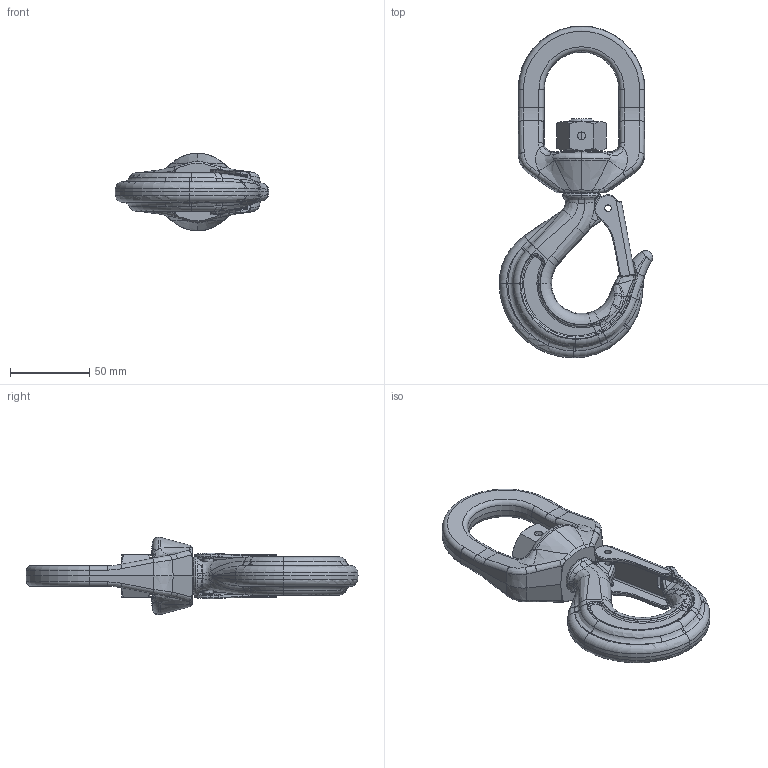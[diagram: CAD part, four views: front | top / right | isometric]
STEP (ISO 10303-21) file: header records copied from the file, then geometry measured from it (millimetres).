
FILE_DESCRIPTION(('STEP AP214'),'1');
FILE_NAME('c7g025.stp','2022-03-22T10:20:05',('TraceParts'),('TraceParts S.A.'),'Spatial InterOp 3D',' ',' ');
FILE_SCHEMA(('AUTOMOTIVE_DESIGN { 1 0 10303 214 1 1 1 1 }'));
Length unit declared in the file: millimetre
Products named in the file (1): c7g025_1
Bounding box: 97.01 x 209.53 x 49 mm (x, y, z)
Volume: 193536.5 mm3; surface area: 45656.3 mm2
Topology: 4 solids, 4 shells, 727 faces, 1755 edges, 1040 vertices
Faces by surface type: bspline 345, plane 126, cylinder 105, torus 83, cone 68
Full cylindrical faces by diameter (mm): 5 x2
Entity records: 58040 total; most frequent: CARTESIAN_POINT 42944, ORIENTED_EDGE 3502, DIRECTION 2768, EDGE_CURVE 1751, AXIS2_PLACEMENT_3D 1170, VERTEX_POINT 1040, EDGE_LOOP 747, ADVANCED_FACE 727
